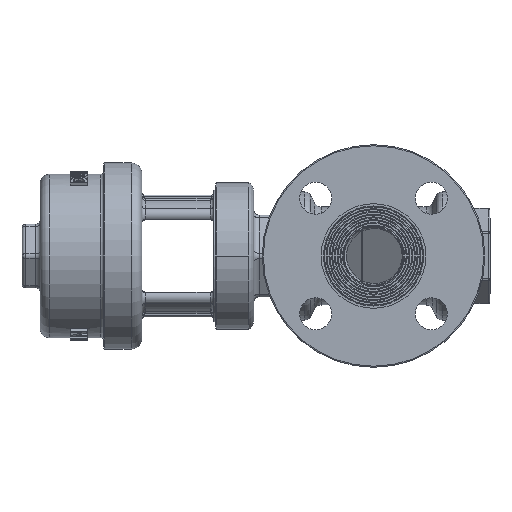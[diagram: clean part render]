
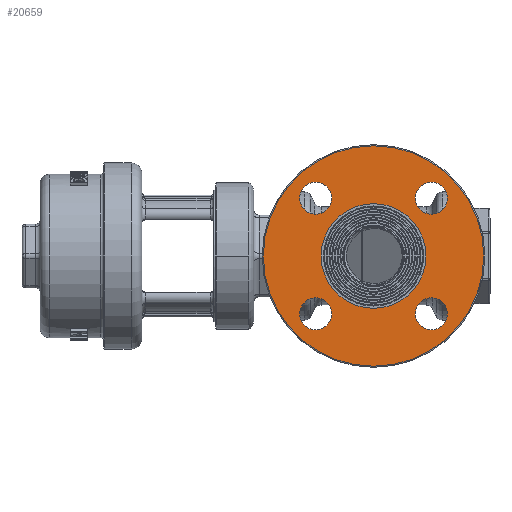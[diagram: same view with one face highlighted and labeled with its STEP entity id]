
A CAD part, left-side view. The second image highlights one B-rep face of the part: STEP entity #20659.
In plain terms, the highlighted planar face has unit normal (-1, 0, 0).
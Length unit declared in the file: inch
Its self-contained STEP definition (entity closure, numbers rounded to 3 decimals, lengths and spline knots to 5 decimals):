
#759 = CIRCLE ( 'NONE', #32250, 0.44 ) ;
#768 = CIRCLE ( 'NONE', #32252, 0.44 ) ;
#771 = CIRCLE ( 'NONE', #32248, 3.0325 ) ;
#772 = CIRCLE ( 'NONE', #32251, 0.44 ) ;
#773 = CIRCLE ( 'NONE', #32249, 0.44 ) ;
#774 = CIRCLE ( 'NONE', #32246, 1.44 ) ;
#3344 = CARTESIAN_POINT ( 'NONE',  ( -3.875, 0., 0. ) ) ;
#3345 = DIRECTION ( 'NONE',  ( 1., 0., 0. ) ) ;
#3346 = DIRECTION ( 'NONE',  ( 0., 0., -1. ) ) ;
#3347 = CARTESIAN_POINT ( 'NONE',  ( -3.875, 0., 0. ) ) ;
#3348 = DIRECTION ( 'NONE',  ( -1., 0., 0. ) ) ;
#3349 = DIRECTION ( 'NONE',  ( 0., 0., -1. ) ) ;
#3350 = CARTESIAN_POINT ( 'NONE',  ( -3.875, 1.59099, -1.59099 ) ) ;
#3351 = DIRECTION ( 'NONE',  ( -1., 0., 0. ) ) ;
#3352 = DIRECTION ( 'NONE',  ( 0., 0., 1. ) ) ;
#3353 = CARTESIAN_POINT ( 'NONE',  ( -3.875, -1.59099, -1.59099 ) ) ;
#3354 = DIRECTION ( 'NONE',  ( -1., 0., 0. ) ) ;
#3355 = DIRECTION ( 'NONE',  ( 0., 0., 1. ) ) ;
#3356 = CARTESIAN_POINT ( 'NONE',  ( -3.875, -1.59099, 1.59099 ) ) ;
#3357 = DIRECTION ( 'NONE',  ( -1., 0., 0. ) ) ;
#3358 = DIRECTION ( 'NONE',  ( 0., 0., 1. ) ) ;
#3359 = CARTESIAN_POINT ( 'NONE',  ( -3.875, 1.59099, 1.59099 ) ) ;
#3360 = DIRECTION ( 'NONE',  ( -1., 0., 0. ) ) ;
#3361 = DIRECTION ( 'NONE',  ( 0., 0., 1. ) ) ;
#4418 = AXIS2_PLACEMENT_3D ( 'NONE', #11669, #11670, #11671 ) ;
#8445 = CIRCLE ( 'NONE', #4418, 3.0325 ) ;
#11669 = CARTESIAN_POINT ( 'NONE',  ( -3.875, 0., 0. ) ) ;
#11670 = DIRECTION ( 'NONE',  ( -1., 0., 0. ) ) ;
#11671 = DIRECTION ( 'NONE',  ( 0., 0., -1. ) ) ;
#12516 = CARTESIAN_POINT ( 'NONE',  ( -3.875, 0., -3.0325 ) ) ;
#12526 = CARTESIAN_POINT ( 'NONE',  ( -3.875, 0., 1.44 ) ) ;
#12567 = CARTESIAN_POINT ( 'NONE',  ( -3.875, 1.59099, -2.03099 ) ) ;
#12570 = CARTESIAN_POINT ( 'NONE',  ( -3.875, 1.59099, -1.15099 ) ) ;
#12571 = CARTESIAN_POINT ( 'NONE',  ( -3.875, -1.59099, -2.03099 ) ) ;
#12574 = CARTESIAN_POINT ( 'NONE',  ( -3.875, -1.59099, -1.15099 ) ) ;
#12575 = CARTESIAN_POINT ( 'NONE',  ( -3.875, -1.59099, 1.15099 ) ) ;
#12577 = CARTESIAN_POINT ( 'NONE',  ( -3.875, -1.59099, 2.03099 ) ) ;
#12580 = CARTESIAN_POINT ( 'NONE',  ( -3.875, 1.59099, 2.03099 ) ) ;
#12581 = CARTESIAN_POINT ( 'NONE',  ( -3.875, 1.59099, 1.15099 ) ) ;
#12866 = EDGE_CURVE ( 'NONE', #20284, #20977, #774, .T. ) ;
#12867 = EDGE_CURVE ( 'NONE', #20274, #20975, #771, .T. ) ;
#12868 = EDGE_CURVE ( 'NONE', #20328, #20325, #773, .T. ) ;
#12869 = EDGE_CURVE ( 'NONE', #20332, #20329, #759, .T. ) ;
#12870 = EDGE_CURVE ( 'NONE', #20335, #20333, #772, .T. ) ;
#12871 = EDGE_CURVE ( 'NONE', #20338, #20339, #768, .T. ) ;
#19075 = EDGE_CURVE ( 'NONE', #20975, #20274, #8445, .T. ) ;
#20274 = VERTEX_POINT ( 'NONE', #12516 ) ;
#20284 = VERTEX_POINT ( 'NONE', #12526 ) ;
#20325 = VERTEX_POINT ( 'NONE', #12567 ) ;
#20328 = VERTEX_POINT ( 'NONE', #12570 ) ;
#20329 = VERTEX_POINT ( 'NONE', #12571 ) ;
#20332 = VERTEX_POINT ( 'NONE', #12574 ) ;
#20333 = VERTEX_POINT ( 'NONE', #12575 ) ;
#20335 = VERTEX_POINT ( 'NONE', #12577 ) ;
#20338 = VERTEX_POINT ( 'NONE', #12580 ) ;
#20339 = VERTEX_POINT ( 'NONE', #12581 ) ;
#20659 = ADVANCED_FACE ( 'NONE', ( #28347, #28355, #28333, #28351, #28353, #28356 ), #31616, .F. ) ;
#20975 = VERTEX_POINT ( 'NONE', #34617 ) ;
#20977 = VERTEX_POINT ( 'NONE', #34619 ) ;
#21262 = EDGE_LOOP ( 'NONE', ( #39970, #39952 ) ) ;
#21270 = EDGE_LOOP ( 'NONE', ( #40217, #40194 ) ) ;
#21283 = EDGE_LOOP ( 'NONE', ( #40189, #40040 ) ) ;
#21287 = EDGE_LOOP ( 'NONE', ( #39957, #40093 ) ) ;
#21356 = EDGE_LOOP ( 'NONE', ( #39937, #39940 ) ) ;
#21452 = EDGE_LOOP ( 'NONE', ( #40128, #39936 ) ) ;
#24156 = EDGE_CURVE ( 'NONE', #20329, #20332, #42880, .T. ) ;
#24239 = EDGE_CURVE ( 'NONE', #20339, #20338, #43032, .T. ) ;
#24246 = EDGE_CURVE ( 'NONE', #20325, #20328, #43045, .T. ) ;
#24248 = EDGE_CURVE ( 'NONE', #20333, #20335, #43051, .T. ) ;
#24467 = EDGE_CURVE ( 'NONE', #20977, #20284, #43595, .T. ) ;
#28333 = FACE_BOUND ( 'NONE', #21283, .T. ) ;
#28347 = FACE_OUTER_BOUND ( 'NONE', #21262, .T. ) ;
#28351 = FACE_BOUND ( 'NONE', #21452, .T. ) ;
#28353 = FACE_BOUND ( 'NONE', #21356, .T. ) ;
#28355 = FACE_BOUND ( 'NONE', #21270, .T. ) ;
#28356 = FACE_BOUND ( 'NONE', #21287, .T. ) ;
#31609 = DIRECTION ( 'NONE',  ( 1., 0., 0. ) ) ;
#31616 = PLANE ( 'NONE',  #32372 ) ;
#31618 = CARTESIAN_POINT ( 'NONE',  ( -3.875, 1.44, 0. ) ) ;
#31620 = DIRECTION ( 'NONE',  ( 0., 0., -1. ) ) ;
#32246 = AXIS2_PLACEMENT_3D ( 'NONE', #3344, #3345, #3346 ) ;
#32248 = AXIS2_PLACEMENT_3D ( 'NONE', #3347, #3348, #3349 ) ;
#32249 = AXIS2_PLACEMENT_3D ( 'NONE', #3350, #3351, #3352 ) ;
#32250 = AXIS2_PLACEMENT_3D ( 'NONE', #3353, #3354, #3355 ) ;
#32251 = AXIS2_PLACEMENT_3D ( 'NONE', #3356, #3357, #3358 ) ;
#32252 = AXIS2_PLACEMENT_3D ( 'NONE', #3359, #3360, #3361 ) ;
#32372 = AXIS2_PLACEMENT_3D ( 'NONE', #31618, #31609, #31620 ) ;
#32770 = AXIS2_PLACEMENT_3D ( 'NONE', #44676, #44677, #44678 ) ;
#32851 = AXIS2_PLACEMENT_3D ( 'NONE', #45285, #45287, #45289 ) ;
#32855 = AXIS2_PLACEMENT_3D ( 'NONE', #45330, #45332, #45334 ) ;
#32856 = AXIS2_PLACEMENT_3D ( 'NONE', #45338, #45340, #45342 ) ;
#32986 = AXIS2_PLACEMENT_3D ( 'NONE', #46579, #46580, #46581 ) ;
#34617 = CARTESIAN_POINT ( 'NONE',  ( -3.875, 0., 3.0325 ) ) ;
#34619 = CARTESIAN_POINT ( 'NONE',  ( -3.875, 0., -1.44 ) ) ;
#39936 = ORIENTED_EDGE ( 'NONE', *, *, #24248, .F. ) ;
#39937 = ORIENTED_EDGE ( 'NONE', *, *, #12871, .F. ) ;
#39940 = ORIENTED_EDGE ( 'NONE', *, *, #24239, .F. ) ;
#39952 = ORIENTED_EDGE ( 'NONE', *, *, #19075, .T. ) ;
#39957 = ORIENTED_EDGE ( 'NONE', *, *, #24467, .T. ) ;
#39970 = ORIENTED_EDGE ( 'NONE', *, *, #12867, .T. ) ;
#40040 = ORIENTED_EDGE ( 'NONE', *, *, #24156, .F. ) ;
#40093 = ORIENTED_EDGE ( 'NONE', *, *, #12866, .T. ) ;
#40128 = ORIENTED_EDGE ( 'NONE', *, *, #12870, .F. ) ;
#40189 = ORIENTED_EDGE ( 'NONE', *, *, #12869, .F. ) ;
#40194 = ORIENTED_EDGE ( 'NONE', *, *, #24246, .F. ) ;
#40217 = ORIENTED_EDGE ( 'NONE', *, *, #12868, .F. ) ;
#42880 = CIRCLE ( 'NONE', #32770, 0.44 ) ;
#43032 = CIRCLE ( 'NONE', #32851, 0.44 ) ;
#43045 = CIRCLE ( 'NONE', #32855, 0.44 ) ;
#43051 = CIRCLE ( 'NONE', #32856, 0.44 ) ;
#43595 = CIRCLE ( 'NONE', #32986, 1.44 ) ;
#44676 = CARTESIAN_POINT ( 'NONE',  ( -3.875, -1.59099, -1.59099 ) ) ;
#44677 = DIRECTION ( 'NONE',  ( -1., 0., 0. ) ) ;
#44678 = DIRECTION ( 'NONE',  ( 0., 0., 1. ) ) ;
#45285 = CARTESIAN_POINT ( 'NONE',  ( -3.875, 1.59099, 1.59099 ) ) ;
#45287 = DIRECTION ( 'NONE',  ( -1., 0., 0. ) ) ;
#45289 = DIRECTION ( 'NONE',  ( 0., 0., 1. ) ) ;
#45330 = CARTESIAN_POINT ( 'NONE',  ( -3.875, 1.59099, -1.59099 ) ) ;
#45332 = DIRECTION ( 'NONE',  ( -1., 0., 0. ) ) ;
#45334 = DIRECTION ( 'NONE',  ( 0., 0., 1. ) ) ;
#45338 = CARTESIAN_POINT ( 'NONE',  ( -3.875, -1.59099, 1.59099 ) ) ;
#45340 = DIRECTION ( 'NONE',  ( -1., 0., 0. ) ) ;
#45342 = DIRECTION ( 'NONE',  ( 0., 0., 1. ) ) ;
#46579 = CARTESIAN_POINT ( 'NONE',  ( -3.875, 0., 0. ) ) ;
#46580 = DIRECTION ( 'NONE',  ( 1., 0., 0. ) ) ;
#46581 = DIRECTION ( 'NONE',  ( 0., 0., -1. ) ) ;
